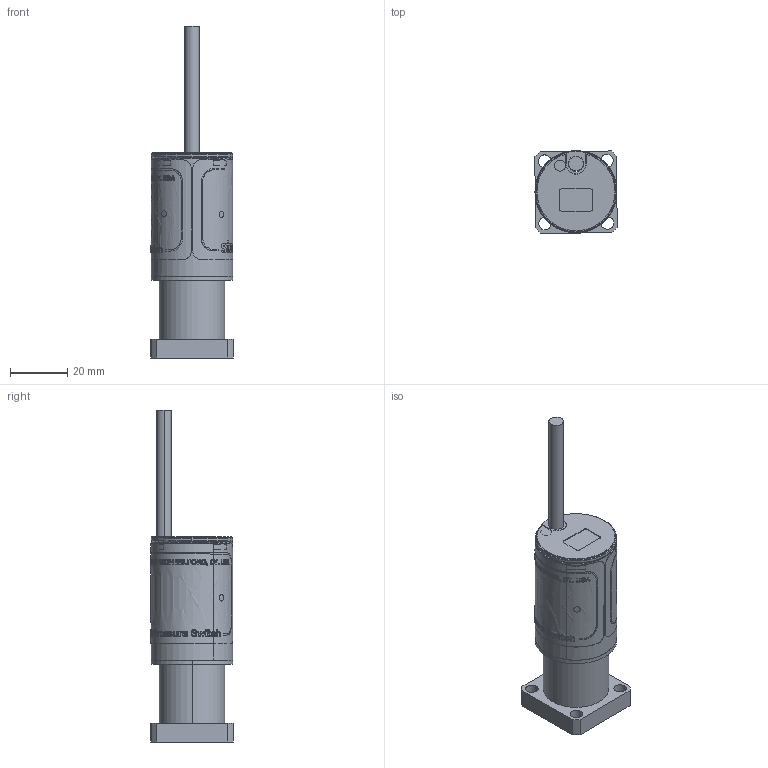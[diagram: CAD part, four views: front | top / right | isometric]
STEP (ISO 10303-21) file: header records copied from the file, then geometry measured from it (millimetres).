
FILE_DESCRIPTION (( 'STEP AP214' ), '1' );
FILE_NAME ('STASET GEN3 CSEAL.STEP', '2023-08-30T13:43:57', ( '' ), ( '' ), 'SwSTEP 2.0', 'SolidWorks 2012', '' );
FILE_SCHEMA (( 'AUTOMOTIVE_DESIGN' ));
Length unit declared in the file: inch
Products named in the file (1): STASET GEN3 CSEAL
Bounding box: 28.76 x 28.76 x 116.03 mm (x, y, z)
Surface area: 13906.7 mm2 (no closed solid volume)
Topology: 0 solids, 21 shells, 388 faces, 2544 edges, 2113 vertices
Faces by surface type: bspline 264, plane 62, cylinder 43, torus 17, sphere 2
Entity records: 42147 total; most frequent: CARTESIAN_POINT 22948, ORIENTED_EDGE 3195, EDGE_CURVE 2544, VERTEX_POINT 2113, B_SPLINE_CURVE_WITH_KNOTS 1841, DIRECTION 1088, VECTOR 568, LINE 568
